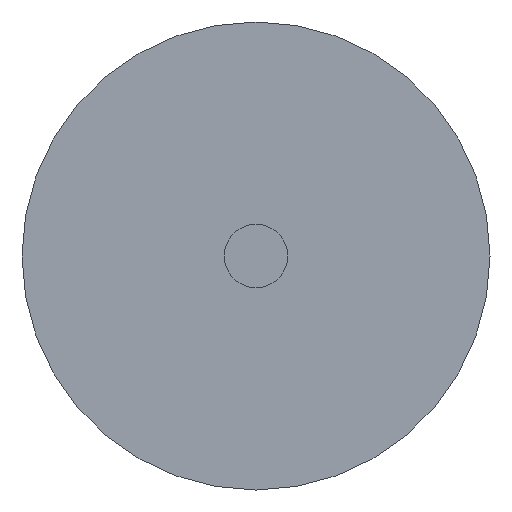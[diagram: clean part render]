
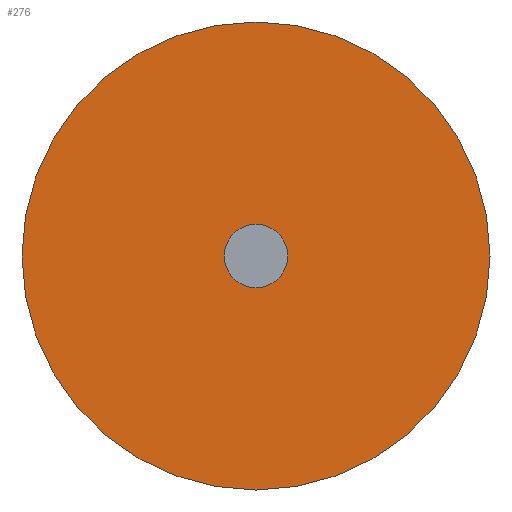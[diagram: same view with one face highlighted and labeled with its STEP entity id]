
A CAD part, left-side view. The second image highlights one B-rep face of the part: STEP entity #276.
In plain terms, the highlighted planar face has unit normal (-1, 0, 0).
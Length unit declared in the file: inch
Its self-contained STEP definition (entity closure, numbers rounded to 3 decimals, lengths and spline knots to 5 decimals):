
#76 = DIRECTION ( 'NONE',  ( -1., 0., 0. ) ) ;
#139 = DIRECTION ( 'NONE',  ( 0., 0., 1. ) ) ;
#228 = CIRCLE ( 'NONE', #416, 0.08837 ) ;
#251 = CIRCLE ( 'NONE', #2301, 0.012 ) ;
#276 = ADVANCED_FACE ( 'NONE', ( #2291, #628 ), #1348, .F. ) ;
#335 = EDGE_CURVE ( 'NONE', #1228, #1648, #251, .T. ) ;
#346 = ORIENTED_EDGE ( 'NONE', *, *, #2092, .T. ) ;
#356 = CIRCLE ( 'NONE', #369, 0.012 ) ;
#369 = AXIS2_PLACEMENT_3D ( 'NONE', #1043, #1734, #139 ) ;
#404 = EDGE_LOOP ( 'NONE', ( #2157, #1948 ) ) ;
#416 = AXIS2_PLACEMENT_3D ( 'NONE', #1658, #76, #775 ) ;
#458 = DIRECTION ( 'NONE',  ( 1., 0., 0. ) ) ;
#474 = DIRECTION ( 'NONE',  ( -1., 0., 0. ) ) ;
#541 = VERTEX_POINT ( 'NONE', #1094 ) ;
#567 = CARTESIAN_POINT ( 'NONE',  ( 0., 0., -0.012 ) ) ;
#628 = FACE_OUTER_BOUND ( 'NONE', #1938, .T. ) ;
#651 = DIRECTION ( 'NONE',  ( -1., 0., 0. ) ) ;
#775 = DIRECTION ( 'NONE',  ( 0., 0., 1. ) ) ;
#849 = EDGE_CURVE ( 'NONE', #1648, #1228, #356, .T. ) ;
#1043 = CARTESIAN_POINT ( 'NONE',  ( 0., 0., 0. ) ) ;
#1094 = CARTESIAN_POINT ( 'NONE',  ( 0., 0., 0.08837 ) ) ;
#1171 = DIRECTION ( 'NONE',  ( 0., 0., -1. ) ) ;
#1185 = DIRECTION ( 'NONE',  ( 0., 0., 1. ) ) ;
#1228 = VERTEX_POINT ( 'NONE', #1992 ) ;
#1298 = CARTESIAN_POINT ( 'NONE',  ( 0., 0., -0.08837 ) ) ;
#1348 = PLANE ( 'NONE',  #2060 ) ;
#1371 = DIRECTION ( 'NONE',  ( 0., 0., 1. ) ) ;
#1648 = VERTEX_POINT ( 'NONE', #567 ) ;
#1658 = CARTESIAN_POINT ( 'NONE',  ( 0., 0., 0. ) ) ;
#1734 = DIRECTION ( 'NONE',  ( -1., 0., 0. ) ) ;
#1749 = ORIENTED_EDGE ( 'NONE', *, *, #1947, .T. ) ;
#1866 = CIRCLE ( 'NONE', #1868, 0.08837 ) ;
#1868 = AXIS2_PLACEMENT_3D ( 'NONE', #2106, #474, #1185 ) ;
#1938 = EDGE_LOOP ( 'NONE', ( #346, #1749 ) ) ;
#1947 = EDGE_CURVE ( 'NONE', #2337, #541, #228, .T. ) ;
#1948 = ORIENTED_EDGE ( 'NONE', *, *, #849, .F. ) ;
#1992 = CARTESIAN_POINT ( 'NONE',  ( 0., 0., 0.012 ) ) ;
#2060 = AXIS2_PLACEMENT_3D ( 'NONE', #2087, #458, #1171 ) ;
#2087 = CARTESIAN_POINT ( 'NONE',  ( 0., 0., 0. ) ) ;
#2092 = EDGE_CURVE ( 'NONE', #541, #2337, #1866, .T. ) ;
#2106 = CARTESIAN_POINT ( 'NONE',  ( 0., 0., 0. ) ) ;
#2157 = ORIENTED_EDGE ( 'NONE', *, *, #335, .F. ) ;
#2291 = FACE_BOUND ( 'NONE', #404, .T. ) ;
#2301 = AXIS2_PLACEMENT_3D ( 'NONE', #2320, #651, #1371 ) ;
#2320 = CARTESIAN_POINT ( 'NONE',  ( 0., 0., 0. ) ) ;
#2337 = VERTEX_POINT ( 'NONE', #1298 ) ;
